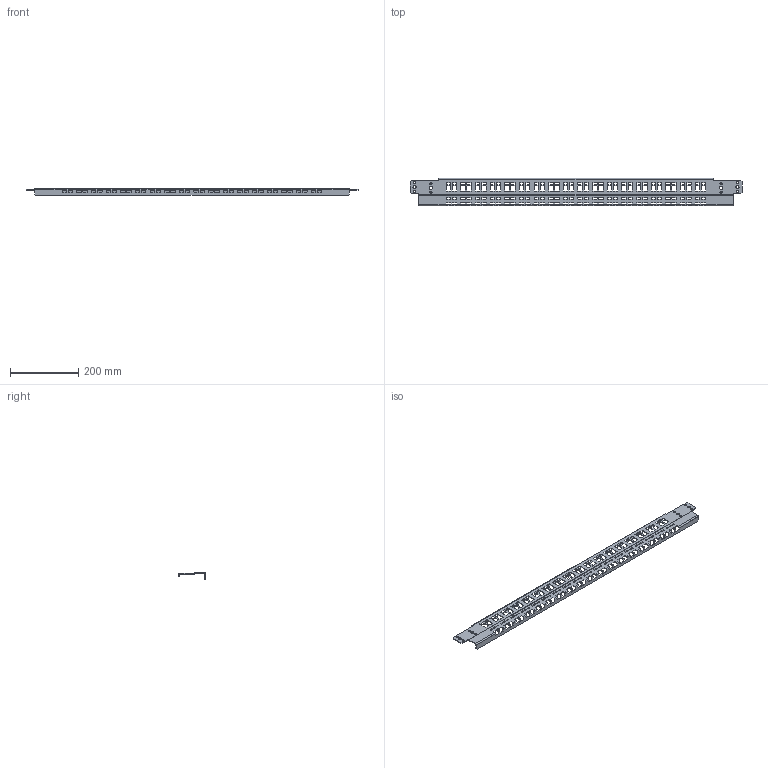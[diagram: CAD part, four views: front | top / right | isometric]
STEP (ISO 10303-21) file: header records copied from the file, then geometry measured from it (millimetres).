
FILE_DESCRIPTION (( 'STEP AP203' ), '1' );
FILE_NAME ('MG 100 EMC Ðåéêà êàáåëüíàÿ ñ êîíòàêòîì ÝÌÑ.STEP', '2024-04-22T11:14:27', ( '' ), ( '' ), 'SwSTEP 2.0', 'SolidWorks 2022', '' );
FILE_SCHEMA (( 'CONFIG_CONTROL_DESIGN' ));
Products named in the file (1): MG 100 EMC Рейка кабельная с контактом ЭМС
Bounding box: 975 x 80 x 20 mm (x, y, z)
Volume: 154868.5 mm3; surface area: 172888.6 mm2
Topology: 1 solids, 1 shells, 1434 faces, 4216 edges, 2712 vertices
Faces by surface type: plane 754, cylinder 680
Entity records: 48333 total; most frequent: DIRECTION 8446, ORIENTED_EDGE 8432, CARTESIAN_POINT 8363, EDGE_CURVE 4216, LINE 2856, VECTOR 2856, AXIS2_PLACEMENT_3D 2795, VERTEX_POINT 2712
